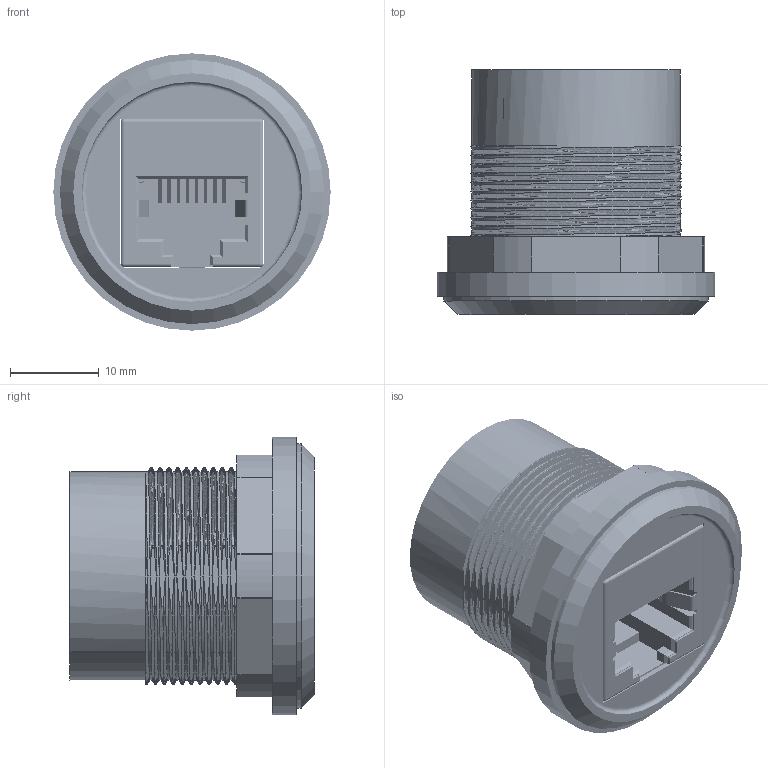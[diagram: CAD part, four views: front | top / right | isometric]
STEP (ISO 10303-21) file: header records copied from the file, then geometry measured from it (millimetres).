
FILE_DESCRIPTION(('FreeCAD Model'),'2;1');
FILE_NAME('Open CASCADE Shape Model','2024-03-07T06:51:34',(''),(''), 'Open CASCADE STEP processor 7.6','FreeCAD','Unknown');
FILE_SCHEMA(('AUTOMOTIVE_DESIGN { 1 0 10303 214 1 1 1 1 }'));
Length unit declared in the file: millimetre
Products named in the file (6): EX_49196_3D; C-2301995-001; 49196_Coupling-nut; 49196_Rubber O-ring; 49196_Connector; C-2301995-002
Assembly tree (5 placements, depth 2):
  EX_49196_3D
    C-2301995-001
    49196_Coupling-nut
    49196_Rubber O-ring
    49196_Connector
    C-2301995-002
Bounding box: 31.2 x 27.55 x 31.2 mm (x, y, z)
Volume: 10956.9 mm3; surface area: 12557.7 mm2
Topology: 5 solids, 5 shells, 1115 faces, 3072 edges, 1967 vertices
Faces by surface type: plane 641, cylinder 276, bspline 179, torus 10, sphere 8, cone 1
Full cylindrical faces by diameter (mm): 24.7 x1, 24.8 x1, 27.3 x1, 29.7 x1, 31.2 x1
Entity records: 536198 total; most frequent: CARTESIAN_POINT 509175, ORIENTED_EDGE 6140, DIRECTION 4762, EDGE_CURVE 3070, VERTEX_POINT 1967, LINE 1888, VECTOR 1888, AXIS2_PLACEMENT_3D 1437
